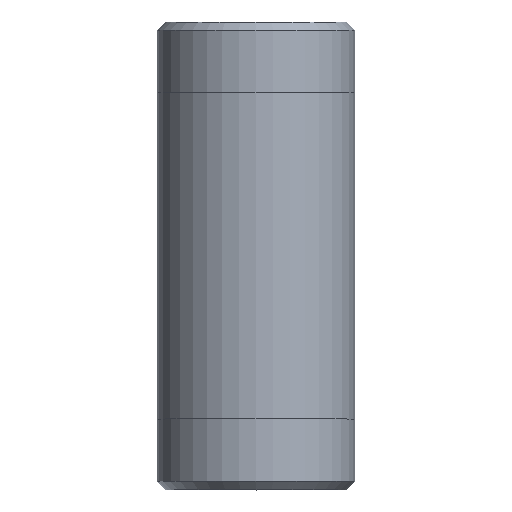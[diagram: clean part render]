
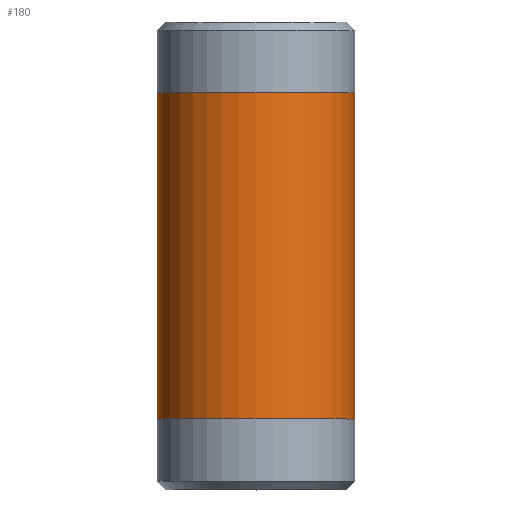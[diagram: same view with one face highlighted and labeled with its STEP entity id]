
A CAD part, top view. The second image highlights one B-rep face of the part: STEP entity #180.
In plain terms, the highlighted cylindrical face has radius 24.13 mm (diameter 48.26 mm), a full revolution.
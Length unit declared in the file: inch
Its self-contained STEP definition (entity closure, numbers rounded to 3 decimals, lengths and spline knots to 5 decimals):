
#25=CYLINDRICAL_SURFACE('',#220,0.95);
#34=FACE_OUTER_BOUND('',#47,.T.);
#47=EDGE_LOOP('',(#155,#156,#157,#158,#159,#160));
#55=LINE('',#338,#61);
#61=VECTOR('',#283,0.95);
#77=CIRCLE('',#218,0.95);
#78=CIRCLE('',#219,0.95);
#79=CIRCLE('',#221,0.95);
#80=CIRCLE('',#222,0.95);
#95=VERTEX_POINT('',#329);
#96=VERTEX_POINT('',#330);
#97=VERTEX_POINT('',#334);
#98=VERTEX_POINT('',#335);
#117=EDGE_CURVE('',#95,#96,#77,.T.);
#118=EDGE_CURVE('',#96,#95,#78,.T.);
#119=EDGE_CURVE('',#97,#98,#79,.T.);
#120=EDGE_CURVE('',#98,#97,#80,.T.);
#121=EDGE_CURVE('',#98,#96,#55,.T.);
#155=ORIENTED_EDGE('',*,*,#119,.F.);
#156=ORIENTED_EDGE('',*,*,#120,.F.);
#157=ORIENTED_EDGE('',*,*,#121,.T.);
#158=ORIENTED_EDGE('',*,*,#118,.T.);
#159=ORIENTED_EDGE('',*,*,#117,.T.);
#160=ORIENTED_EDGE('',*,*,#121,.F.);
#180=ADVANCED_FACE('',(#34),#25,.T.);
#218=AXIS2_PLACEMENT_3D('',#331,#273,#274);
#219=AXIS2_PLACEMENT_3D('',#332,#275,#276);
#220=AXIS2_PLACEMENT_3D('',#333,#277,#278);
#221=AXIS2_PLACEMENT_3D('',#336,#279,#280);
#222=AXIS2_PLACEMENT_3D('',#337,#281,#282);
#273=DIRECTION('center_axis',(0.,-1.,0.));
#274=DIRECTION('ref_axis',(1.,0.,0.));
#275=DIRECTION('center_axis',(0.,-1.,0.));
#276=DIRECTION('ref_axis',(1.,0.,0.));
#277=DIRECTION('center_axis',(0.,-1.,0.));
#278=DIRECTION('ref_axis',(0.,0.,-1.));
#279=DIRECTION('center_axis',(0.,-1.,0.));
#280=DIRECTION('ref_axis',(1.,0.,0.));
#281=DIRECTION('center_axis',(0.,-1.,0.));
#282=DIRECTION('ref_axis',(1.,0.,0.));
#283=DIRECTION('',(0.,1.,0.));
#329=CARTESIAN_POINT('',(0.,3.819,-0.95));
#330=CARTESIAN_POINT('',(0.,3.819,0.95));
#331=CARTESIAN_POINT('Origin',(0.,3.819,0.));
#332=CARTESIAN_POINT('Origin',(0.,3.819,0.));
#333=CARTESIAN_POINT('Origin',(0.,2.25,0.));
#334=CARTESIAN_POINT('',(0.,0.681,-0.95));
#335=CARTESIAN_POINT('',(0.,0.681,0.95));
#336=CARTESIAN_POINT('Origin',(0.,0.681,0.));
#337=CARTESIAN_POINT('Origin',(0.,0.681,0.));
#338=CARTESIAN_POINT('',(0.,2.25,0.95));
